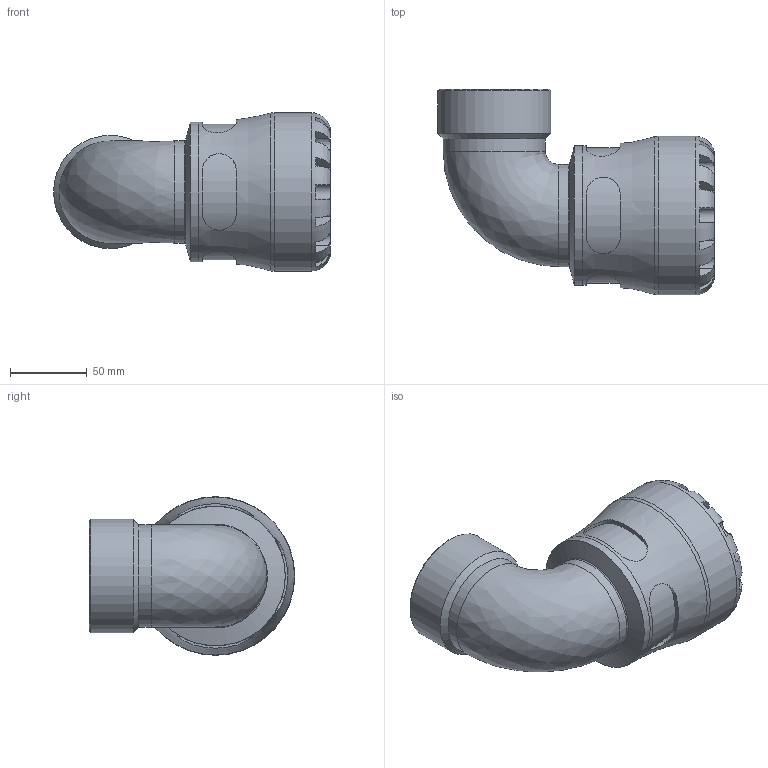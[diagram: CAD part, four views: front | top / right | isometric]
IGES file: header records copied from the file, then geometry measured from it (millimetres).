
Global section: file name: 107600063020_197600063020.ipt; native system: Autodesk Inventor 2015; preprocessor: unknown; author: KIM; date: 20170518.120414; units: millimetre
Bounding box: 179.83 x 133.5 x 103 mm (x, y, z)
Volume: 558392 mm3; surface area: 103010.6 mm2
Topology: 1 solids, 1 shells, 108 faces, 277 edges, 176 vertices
Faces by surface type: plane 60, revolution 28, cylinder 17, cone 3
Full cylindrical faces by diameter (mm): 66.288 x2, 73.653 x1, 90.64 x1, 103 x1
